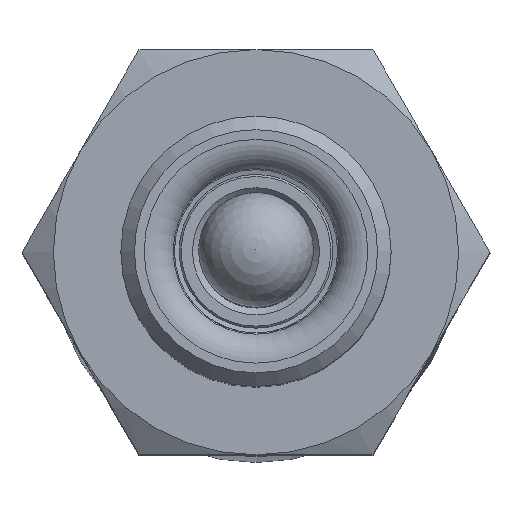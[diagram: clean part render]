
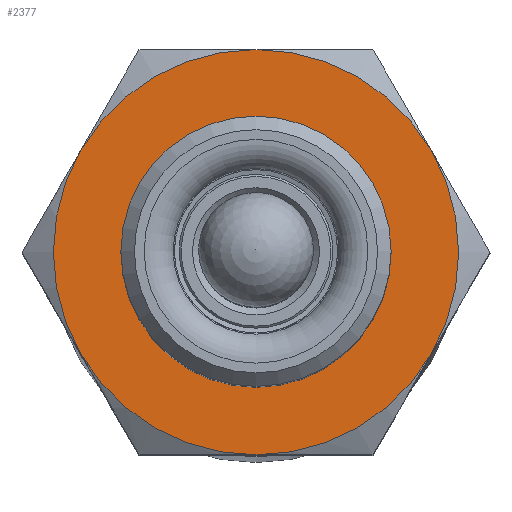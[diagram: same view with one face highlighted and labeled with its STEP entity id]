
A CAD part, top view. The second image highlights one B-rep face of the part: STEP entity #2377.
In plain terms, the highlighted planar face has unit normal (0, 0, 1) as drawn and (1, 0, 0) by its records, which use the part's own axes.
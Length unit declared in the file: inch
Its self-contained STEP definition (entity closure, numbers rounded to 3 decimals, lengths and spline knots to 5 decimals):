
#412=FACE_BOUND('',#650,.T.);
#481=FACE_OUTER_BOUND('',#649,.T.);
#649=EDGE_LOOP('',(#1621,#1622,#1623,#1624,#1625,#1626));
#650=EDGE_LOOP('',(#1627));
#856=CIRCLE('',#2655,0.25006);
#857=CIRCLE('',#2657,0.375);
#858=CIRCLE('',#2658,0.375);
#859=CIRCLE('',#2659,0.375);
#860=CIRCLE('',#2660,0.375);
#861=CIRCLE('',#2661,0.375);
#862=CIRCLE('',#2662,0.375);
#1022=VERTEX_POINT('',#3832);
#1023=VERTEX_POINT('',#3836);
#1024=VERTEX_POINT('',#3837);
#1025=VERTEX_POINT('',#3839);
#1026=VERTEX_POINT('',#3841);
#1027=VERTEX_POINT('',#3843);
#1028=VERTEX_POINT('',#3845);
#1246=EDGE_CURVE('',#1022,#1022,#856,.T.);
#1248=EDGE_CURVE('',#1023,#1024,#857,.T.);
#1249=EDGE_CURVE('',#1024,#1025,#858,.T.);
#1250=EDGE_CURVE('',#1025,#1026,#859,.T.);
#1251=EDGE_CURVE('',#1026,#1027,#860,.T.);
#1252=EDGE_CURVE('',#1027,#1028,#861,.T.);
#1253=EDGE_CURVE('',#1028,#1023,#862,.T.);
#1621=ORIENTED_EDGE('',*,*,#1248,.T.);
#1622=ORIENTED_EDGE('',*,*,#1249,.T.);
#1623=ORIENTED_EDGE('',*,*,#1250,.T.);
#1624=ORIENTED_EDGE('',*,*,#1251,.T.);
#1625=ORIENTED_EDGE('',*,*,#1252,.T.);
#1626=ORIENTED_EDGE('',*,*,#1253,.T.);
#1627=ORIENTED_EDGE('',*,*,#1246,.F.);
#2139=PLANE('',#2656);
#2377=ADVANCED_FACE('',(#481,#412),#2139,.T.);
#2655=AXIS2_PLACEMENT_3D('',#3833,#3086,#3087);
#2656=AXIS2_PLACEMENT_3D('',#3835,#3089,#3090);
#2657=AXIS2_PLACEMENT_3D('',#3838,#3091,#3092);
#2658=AXIS2_PLACEMENT_3D('',#3840,#3093,#3094);
#2659=AXIS2_PLACEMENT_3D('',#3842,#3095,#3096);
#2660=AXIS2_PLACEMENT_3D('',#3844,#3097,#3098);
#2661=AXIS2_PLACEMENT_3D('',#3846,#3099,#3100);
#2662=AXIS2_PLACEMENT_3D('',#3847,#3101,#3102);
#3086=DIRECTION('center_axis',(1.,0.,0.));
#3087=DIRECTION('ref_axis',(0.,0.,1.));
#3089=DIRECTION('center_axis',(1.,0.,0.));
#3090=DIRECTION('ref_axis',(0.,0.,-1.));
#3091=DIRECTION('center_axis',(1.,0.,0.));
#3092=DIRECTION('ref_axis',(0.,1.,0.));
#3093=DIRECTION('center_axis',(1.,0.,0.));
#3094=DIRECTION('ref_axis',(0.,1.,0.));
#3095=DIRECTION('center_axis',(1.,0.,0.));
#3096=DIRECTION('ref_axis',(0.,1.,0.));
#3097=DIRECTION('center_axis',(1.,0.,0.));
#3098=DIRECTION('ref_axis',(0.,1.,0.));
#3099=DIRECTION('center_axis',(1.,0.,0.));
#3100=DIRECTION('ref_axis',(0.,1.,0.));
#3101=DIRECTION('center_axis',(1.,0.,0.));
#3102=DIRECTION('ref_axis',(0.,1.,0.));
#3832=CARTESIAN_POINT('',(0.448,0.,-0.25006));
#3833=CARTESIAN_POINT('Origin',(0.448,0.,0.));
#3835=CARTESIAN_POINT('Origin',(0.448,0.,0.));
#3836=CARTESIAN_POINT('',(0.448,-0.32476,-0.1875));
#3837=CARTESIAN_POINT('',(0.448,0.,-0.375));
#3838=CARTESIAN_POINT('Origin',(0.448,0.,0.));
#3839=CARTESIAN_POINT('',(0.448,0.32476,-0.1875));
#3840=CARTESIAN_POINT('Origin',(0.448,0.,0.));
#3841=CARTESIAN_POINT('',(0.448,0.32476,0.1875));
#3842=CARTESIAN_POINT('Origin',(0.448,0.,0.));
#3843=CARTESIAN_POINT('',(0.448,0.,0.375));
#3844=CARTESIAN_POINT('Origin',(0.448,0.,0.));
#3845=CARTESIAN_POINT('',(0.448,-0.32476,0.1875));
#3846=CARTESIAN_POINT('Origin',(0.448,0.,0.));
#3847=CARTESIAN_POINT('Origin',(0.448,0.,0.));
